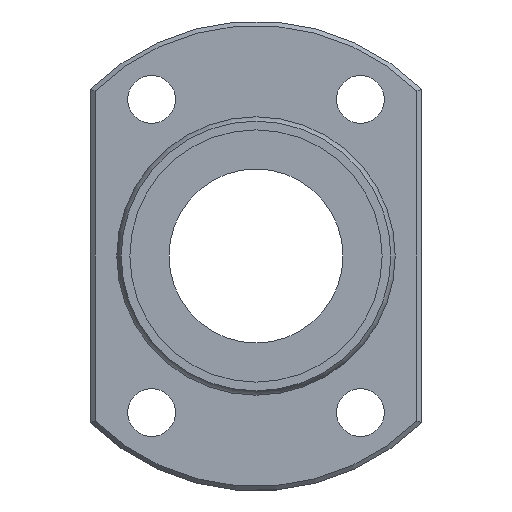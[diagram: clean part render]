
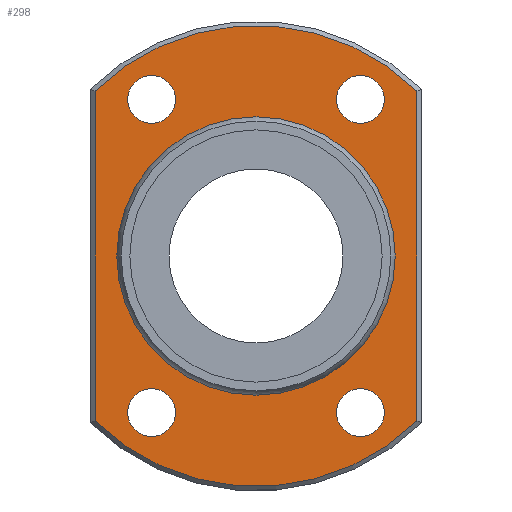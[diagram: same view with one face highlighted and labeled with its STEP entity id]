
A CAD part, left-side view. The second image highlights one B-rep face of the part: STEP entity #298.
In plain terms, the highlighted planar face has unit normal (-1, 0, 0).
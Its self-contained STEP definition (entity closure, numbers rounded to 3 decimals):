
#59=CARTESIAN_POINT('',(8.,18.5,-18.974));
#60=VERTEX_POINT('',#59);
#68=CARTESIAN_POINT('',(8.,18.5,18.974));
#69=VERTEX_POINT('',#68);
#70=CARTESIAN_POINT('',(8.,18.5,-18.974));
#71=DIRECTION('',(0.0,0.0,1.0));
#72=VECTOR('',#71,37.947);
#73=LINE('',#70,#72);
#74=EDGE_CURVE('',#60,#69,#73,.T.);
#101=CARTESIAN_POINT('',(8.,-18.5,18.974));
#102=VERTEX_POINT('',#101);
#103=CARTESIAN_POINT('',(8.,0.0,0.0));
#104=DIRECTION('',(1.0,0.0,0.0));
#105=DIRECTION('',(0.0,0.0,1.0));
#106=AXIS2_PLACEMENT_3D('',#103,#104,#105);
#107=CIRCLE('',#106,26.5);
#108=EDGE_CURVE('',#69,#102,#107,.T.);
#134=CARTESIAN_POINT('',(8.,-18.5,-18.974));
#135=VERTEX_POINT('',#134);
#136=CARTESIAN_POINT('',(8.,-18.5,18.974));
#137=DIRECTION('',(0.0,0.0,-1.0));
#138=VECTOR('',#137,37.947);
#139=LINE('',#136,#138);
#140=EDGE_CURVE('',#102,#135,#139,.T.);
#165=CARTESIAN_POINT('',(8.,0.0,0.0));
#166=DIRECTION('',(1.0,0.0,0.0));
#167=DIRECTION('',(0.0,0.0,-1.0));
#168=AXIS2_PLACEMENT_3D('',#165,#166,#167);
#169=CIRCLE('',#168,26.5);
#170=EDGE_CURVE('',#135,#60,#169,.T.);
#232=CARTESIAN_POINT('',(8.,0.0,21.387));
#233=DIRECTION('',(-1.0,0.0,0.0));
#234=DIRECTION('',(0.0,0.0,1.0));
#235=AXIS2_PLACEMENT_3D('',#232,#233,#234);
#236=PLANE('',#235);
#237=ORIENTED_EDGE('',*,*,#74,.F.);
#238=ORIENTED_EDGE('',*,*,#170,.F.);
#239=ORIENTED_EDGE('',*,*,#140,.F.);
#240=ORIENTED_EDGE('',*,*,#108,.F.);
#241=EDGE_LOOP('',(#237,#238,#239,#240));
#242=FACE_OUTER_BOUND('',#241,.T.);
#243=CARTESIAN_POINT('',(8.,0.0,15.773));
#244=VERTEX_POINT('',#243);
#245=CARTESIAN_POINT('',(8.,0.0,0.0));
#246=DIRECTION('',(-1.0,0.0,0.0));
#247=DIRECTION('',(0.0,0.0,1.0));
#248=AXIS2_PLACEMENT_3D('',#245,#246,#247);
#249=CIRCLE('',#248,15.773);
#250=EDGE_CURVE('',#244,#244,#249,.T.);
#251=ORIENTED_EDGE('',*,*,#250,.F.);
#252=EDGE_LOOP('',(#251));
#253=FACE_BOUND('',#252,.T.);
#254=CARTESIAN_POINT('',(8.,-14.75,-18.));
#255=VERTEX_POINT('',#254);
#256=CARTESIAN_POINT('',(8.,-12.,-18.));
#257=DIRECTION('',(1.0,0.0,0.0));
#258=DIRECTION('',(0.0,1.0,0.0));
#259=AXIS2_PLACEMENT_3D('',#256,#257,#258);
#260=CIRCLE('',#259,2.75);
#261=EDGE_CURVE('',#255,#255,#260,.T.);
#262=ORIENTED_EDGE('',*,*,#261,.T.);
#263=EDGE_LOOP('',(#262));
#264=FACE_BOUND('',#263,.T.);
#265=CARTESIAN_POINT('',(8.,-14.75,18.0));
#266=VERTEX_POINT('',#265);
#267=CARTESIAN_POINT('',(8.,-12.,18.0));
#268=DIRECTION('',(1.0,0.0,0.0));
#269=DIRECTION('',(0.0,1.0,0.0));
#270=AXIS2_PLACEMENT_3D('',#267,#268,#269);
#271=CIRCLE('',#270,2.75);
#272=EDGE_CURVE('',#266,#266,#271,.T.);
#273=ORIENTED_EDGE('',*,*,#272,.T.);
#274=EDGE_LOOP('',(#273));
#275=FACE_BOUND('',#274,.T.);
#276=CARTESIAN_POINT('',(8.,9.25,-18.));
#277=VERTEX_POINT('',#276);
#278=CARTESIAN_POINT('',(8.,12.,-18.));
#279=DIRECTION('',(1.0,0.0,0.0));
#280=DIRECTION('',(0.0,1.0,0.0));
#281=AXIS2_PLACEMENT_3D('',#278,#279,#280);
#282=CIRCLE('',#281,2.75);
#283=EDGE_CURVE('',#277,#277,#282,.T.);
#284=ORIENTED_EDGE('',*,*,#283,.T.);
#285=EDGE_LOOP('',(#284));
#286=FACE_BOUND('',#285,.T.);
#287=CARTESIAN_POINT('',(8.,9.25,18.0));
#288=VERTEX_POINT('',#287);
#289=CARTESIAN_POINT('',(8.,12.,18.0));
#290=DIRECTION('',(1.0,0.0,0.0));
#291=DIRECTION('',(0.0,1.0,0.0));
#292=AXIS2_PLACEMENT_3D('',#289,#290,#291);
#293=CIRCLE('',#292,2.75);
#294=EDGE_CURVE('',#288,#288,#293,.T.);
#295=ORIENTED_EDGE('',*,*,#294,.T.);
#296=EDGE_LOOP('',(#295));
#297=FACE_BOUND('',#296,.T.);
#298=ADVANCED_FACE('',(#242,#253,#264,#275,#286,#297),#236,.T.);
